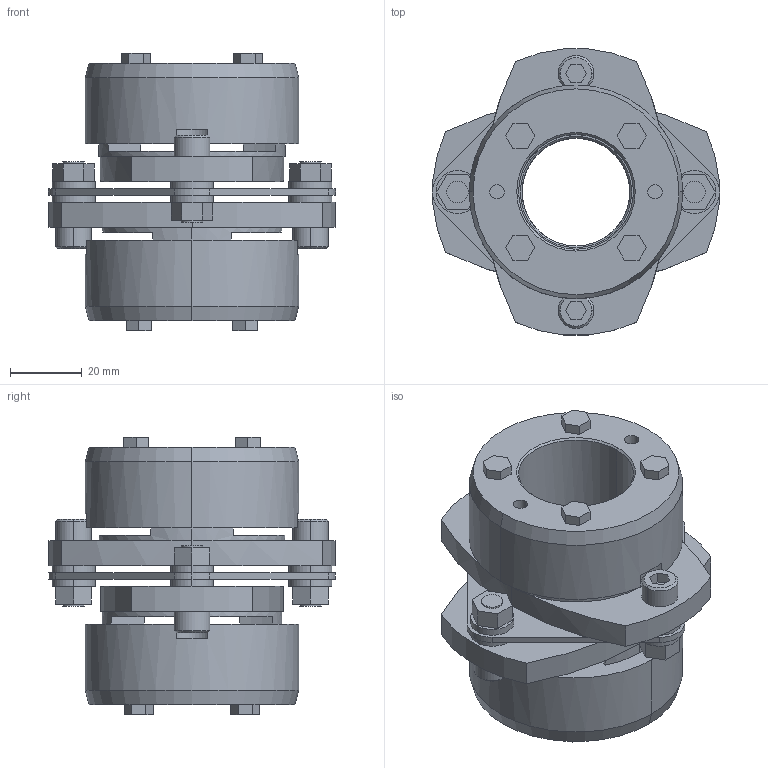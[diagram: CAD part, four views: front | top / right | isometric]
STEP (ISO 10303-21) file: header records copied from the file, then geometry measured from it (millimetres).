
FILE_DESCRIPTION((''),'2;1');
FILE_NAME('LCS-80T7-30×32.stp','2011-09-12T17:00:54',(''),(''),'AutoCAD STEP 2000i','AutoCAD 2000i',', , ');
FILE_SCHEMA(('CONFIG_CONTROL_DESIGN'));
Length unit declared in the file: millimetre
Products named in the file (12): LCS-80T7-30×32; 忣兜1; LC80T7-T032; LC80T7-T030-1; LC80T7-T030; LC80T7-T028; LC80T7-T024; LC80T7-T022; LC80T7-T019; LC80T7-T017-1; LC80T7-T017; LCS80-ITA
Assembly tree (11 placements, depth 2):
  LCS-80T7-30×32
    忣兜1
    LC80T7-T032
    LC80T7-T030-1
    LC80T7-T030
    LC80T7-T028
    LC80T7-T024
    LC80T7-T022
    LC80T7-T019
    LC80T7-T017-1
    LC80T7-T017
    LCS80-ITA
Bounding box: 80 x 79.95 x 77.35 mm (x, y, z)
Volume: 143807.2 mm3; surface area: 43374.3 mm2
Topology: 1 solids, 1 shells, 257 faces, 636 edges, 416 vertices
Faces by surface type: plane 153, cylinder 84, cone 20
Entity records: 7923 total; most frequent: DIRECTION 1394, CARTESIAN_POINT 1321, ORIENTED_EDGE 1272, EDGE_CURVE 636, AXIS2_PLACEMENT_3D 489, VERTEX_POINT 416, VECTOR 416, LINE 416
